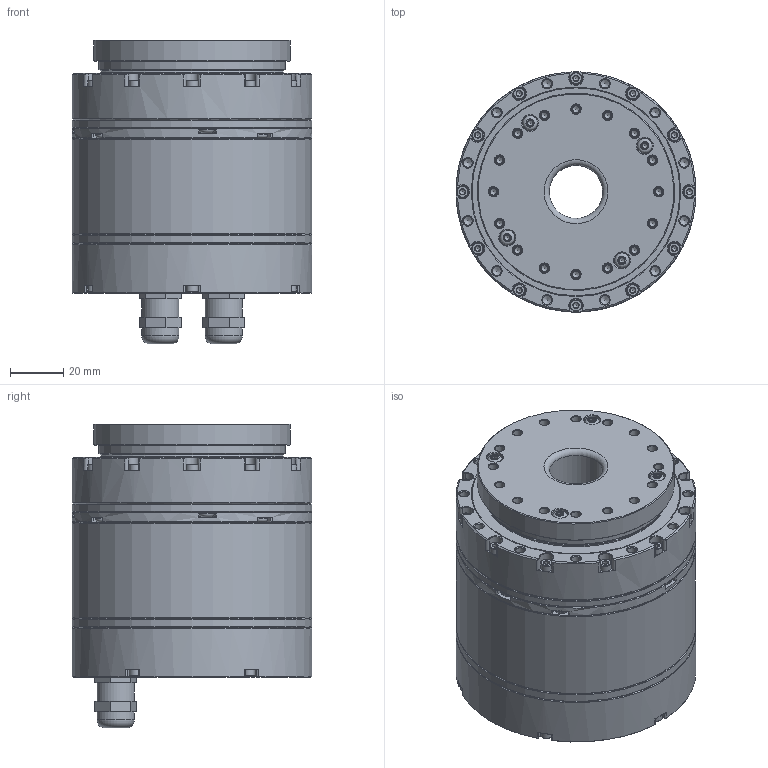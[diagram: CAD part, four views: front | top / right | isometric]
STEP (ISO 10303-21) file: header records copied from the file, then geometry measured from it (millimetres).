
FILE_DESCRIPTION(/* description */ (''),/* implementation_level */ '2;1');
FILE_NAME(/* name */ 'MIS20D-BF-C00.stp',/* time_stamp */ '2025-04-17T15:47:00+08:00',/* author */ (''),/* organization */ (''),/* preprocessor_version */ 'ST-DEVELOPER v16.7',/* originating_system */ 'SIEMENS PLM Software NX 12.0',/* authorisation */ '');
FILE_SCHEMA (('AUTOMOTIVE_DESIGN { 1 0 10303 214 3 1 1 1 }'));
Length unit declared in the file: millimetre
Products named in the file (1): MIS20D-BF-C00
Bounding box: 90 x 90 x 114 mm (x, y, z)
Volume: 242962 mm3; surface area: 171187.1 mm2
Topology: 52 solids, 56 shells, 2377 faces, 5222 edges, 3048 vertices
Faces by surface type: cone 902, plane 861, cylinder 519, torus 95
Full cylindrical faces by diameter (mm): 1.6 x8, 1.886 x4, 2 x2, 2.05 x30, 2.2 x4, 2.38 x18, 2.5 x36, 2.7 x48, 2.874 x16, 3 x4, 3.2 x4, 3.3 x16, 3.5 x52, 4.5 x18, 5.5 x16, 6 x8, 8 x8, 12 x6, 14 x4, 20 x1, 21 x1, 24 x1, 24.8 x1, 33 x1, 38 x1, 39 x1, 42 x2, 46 x1, 46.7 x1, 49.073 x1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
Entity records: 60910 total; most frequent: CARTESIAN_POINT 11809, DIRECTION 10662, ORIENTED_EDGE 8022, AXIS2_PLACEMENT_3D 4657, EDGE_CURVE 4011, EDGE_LOOP 3700, VERTEX_POINT 2885, FACE_BOUND 2554
